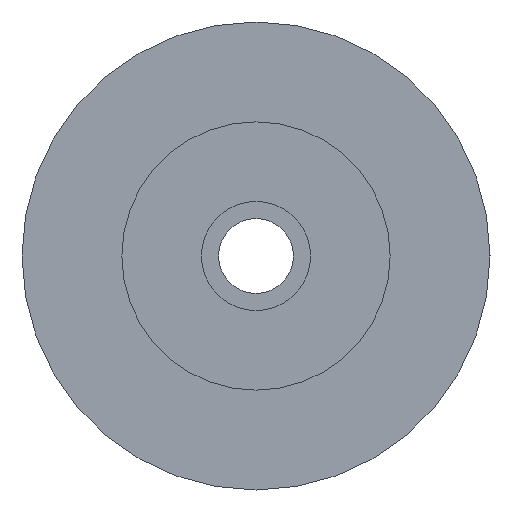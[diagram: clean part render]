
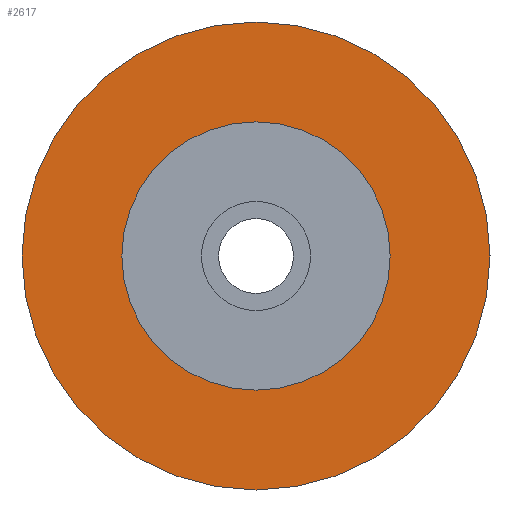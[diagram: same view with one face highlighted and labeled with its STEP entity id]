
A CAD part, left-side view. The second image highlights one B-rep face of the part: STEP entity #2617.
In plain terms, the highlighted planar face has unit normal (-1, 0, 0).
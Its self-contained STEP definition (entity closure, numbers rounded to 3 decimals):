
#929=CARTESIAN_POINT('',(0.0,8.6,0.0));
#930=VERTEX_POINT('',#929);
#939=CARTESIAN_POINT('',(0.0,-8.6,0.));
#940=VERTEX_POINT('',#939);
#941=CARTESIAN_POINT('',(0.0,0.0,0.0));
#942=DIRECTION('',(1.0,0.0,0.0));
#943=DIRECTION('',(0.0,1.0,0.0));
#944=AXIS2_PLACEMENT_3D('',#941,#942,#943);
#945=CIRCLE('',#944,8.6);
#946=EDGE_CURVE('',#940,#930,#945,.T.);
#1116=CARTESIAN_POINT('',(0.0,15.0,0.0));
#1117=VERTEX_POINT('',#1116);
#1124=CARTESIAN_POINT('',(0.0,-15.,0.));
#1125=VERTEX_POINT('',#1124);
#1126=CARTESIAN_POINT('',(0.0,0.0,0.0));
#1127=DIRECTION('',(1.0,0.0,0.0));
#1128=DIRECTION('',(0.0,1.0,0.0));
#1129=AXIS2_PLACEMENT_3D('',#1126,#1127,#1128);
#1130=CIRCLE('',#1129,15.);
#1131=EDGE_CURVE('',#1117,#1125,#1130,.T.);
#2484=CARTESIAN_POINT('',(0.0,0.0,0.0));
#2485=DIRECTION('',(1.0,0.0,0.0));
#2486=DIRECTION('',(0.0,1.0,0.0));
#2487=AXIS2_PLACEMENT_3D('',#2484,#2485,#2486);
#2488=CIRCLE('',#2487,15.);
#2489=EDGE_CURVE('',#1125,#1117,#2488,.T.);
#2594=CARTESIAN_POINT('',(0.0,0.0,0.0));
#2595=DIRECTION('',(1.0,0.0,0.0));
#2596=DIRECTION('',(0.0,1.0,0.0));
#2597=AXIS2_PLACEMENT_3D('',#2594,#2595,#2596);
#2598=CIRCLE('',#2597,8.6);
#2599=EDGE_CURVE('',#930,#940,#2598,.T.);
#2604=CARTESIAN_POINT('',(0.0,11.8,0.0));
#2605=DIRECTION('',(-1.0,0.0,0.0));
#2606=DIRECTION('',(0.0,0.0,1.0));
#2607=AXIS2_PLACEMENT_3D('',#2604,#2605,#2606);
#2608=PLANE('',#2607);
#2609=ORIENTED_EDGE('',*,*,#1131,.F.);
#2610=ORIENTED_EDGE('',*,*,#2489,.F.);
#2611=EDGE_LOOP('',(#2609,#2610));
#2612=FACE_OUTER_BOUND('',#2611,.T.);
#2613=ORIENTED_EDGE('',*,*,#2599,.T.);
#2614=ORIENTED_EDGE('',*,*,#946,.T.);
#2615=EDGE_LOOP('',(#2613,#2614));
#2616=FACE_BOUND('',#2615,.T.);
#2617=ADVANCED_FACE('',(#2612,#2616),#2608,.T.);
